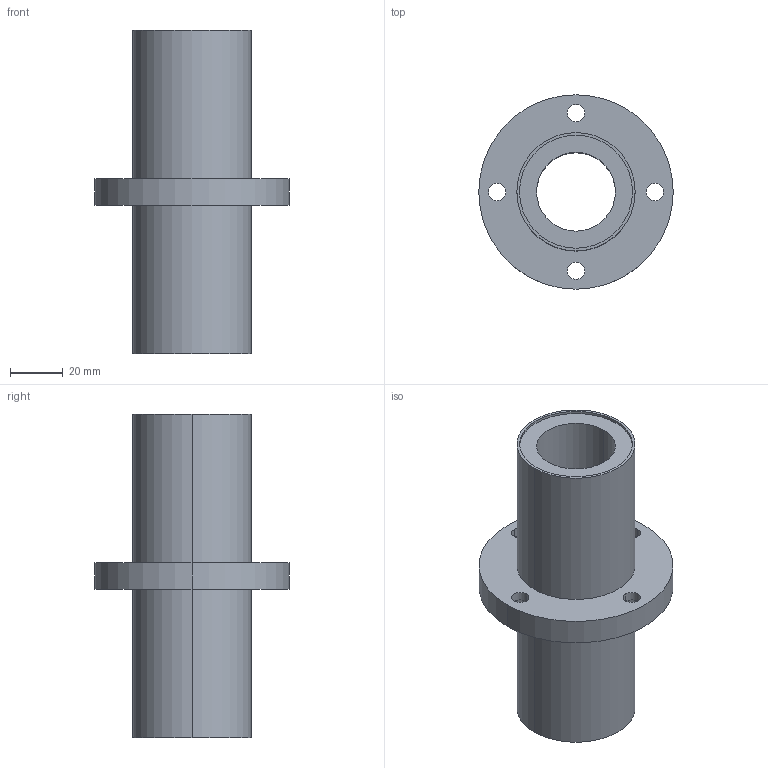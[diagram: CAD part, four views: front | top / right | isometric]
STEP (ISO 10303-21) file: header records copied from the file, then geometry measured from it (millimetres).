
FILE_DESCRIPTION((''),'2;1');
FILE_NAME('C:\Documents and Settings\ｿﾀﾀ蠑ｷ1\ｹﾙﾅﾁ ﾈｭｸ饅\ｺﾎﾇｰﾆﾄﾀﾏ\ﾁｦﾇｰ\LMFM__UU\LMFM30UU.stp','2005-06-15T13:25:08',('ｿﾀﾀ蠑ｷ1'),(''),'Autodesk Inventor 9','Autodesk Inventor 9','');
FILE_SCHEMA(('AUTOMOTIVE_DESIGN { 1 0 10303 214 1 1 1 1 }'));
Length unit declared in the file: millimetre
Products named in the file (1): LMFM__
Bounding box: 74 x 74 x 123 mm (x, y, z)
Volume: 131343 mm3; surface area: 38077 mm2
Topology: 1 solids, 1 shells, 38 faces, 84 edges, 56 vertices
Faces by surface type: cylinder 28, plane 10
Entity records: 1127 total; most frequent: DIRECTION 218, CARTESIAN_POINT 179, ORIENTED_EDGE 168, AXIS2_PLACEMENT_3D 95, EDGE_CURVE 84, VERTEX_POINT 56, CIRCLE 56, EDGE_LOOP 56
